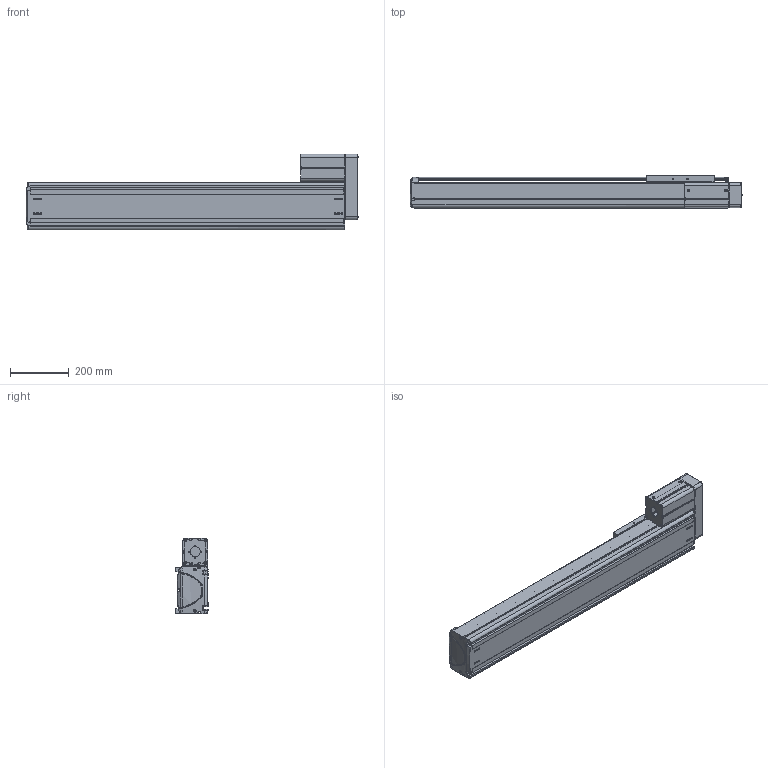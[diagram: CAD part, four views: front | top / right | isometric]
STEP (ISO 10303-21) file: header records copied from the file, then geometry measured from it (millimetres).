
FILE_DESCRIPTION((''),'2;1');
FILE_NAME('BE50F-UR-L_N-75_IGS_PRT','2017-06-18T',(' '),(''),'PRO/ENGINEER BY PARAMETRIC TECHNOLOGY CORPORATION, 2015030','PRO/ENGINEER BY PARAMETRIC TECHNOLOGY CORPORATION, 2015030','');
FILE_SCHEMA(('CONFIG_CONTROL_DESIGN'));
Length unit declared in the file: millimetre
Products named in the file (1): BE50F-UR-L_N-75_IGS_PRT
Bounding box: 1125.88 x 110 x 257 mm (x, y, z)
Volume: 5432056.6 mm3; surface area: 1977924.7 mm2
Topology: 2 solids, 129 shells, 2237 faces, 6114 edges, 3990 vertices
Faces by surface type: plane 1014, cylinder 951, cone 133, torus 59, bspline 48, sphere 32
Entity records: 74270 total; most frequent: CARTESIAN_POINT 17026, DIRECTION 11977, ORIENTED_EDGE 11648, EDGE_CURVE 6064, AXIS2_PLACEMENT_3D 4273, VERTEX_POINT 3984, VECTOR 3431, LINE 3431
